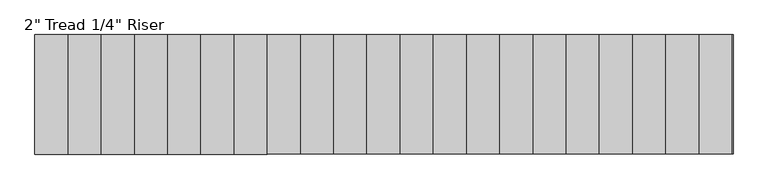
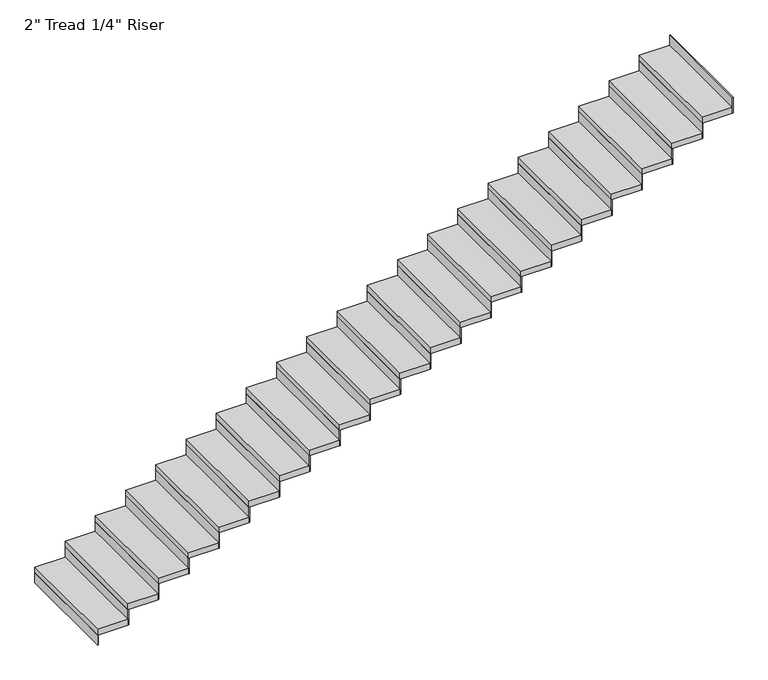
"""IFC4 building model written with IfcOpenShell, lengths in millimetres: stair flight geometry."""

from ifc_helpers import new_model, si_unit, frame, origin, origin_with_axes, place, context, project, spatial, polyline, outline, extrude, source, transform, mapped, element, save


def stair_flight_d92b2248(model_context):
    return source(origin(), model_context, "Body", "SweptSolid", [
        extrude(outline(polyline([(13209.8286682, 6677.964969), (13203.4786682, 6677.964969), (13203.4786682, 7592.364969), (13209.8286682, 7592.364969), (13209.8286682, 6677.964969)])), origin_with_axes(), (0.0, 0.0, 1.0), 87.7454545),
        extrude(outline(polyline([(13457.4786682, 7592.364969), (13457.4786682, 6677.964969), (13203.4786682, 6677.964969), (13203.4786682, 7592.364969), (13457.4786682, 7592.364969)])), frame((0.0, 0.0, 87.7454545), z_axis=(0.0, 0.0, 1.0), x_axis=(1.0, 0.0, 0.0)), (0.0, 0.0, 1.0), 50.8),
        extrude(outline(polyline([(13463.8286682, 6677.964969), (13457.4786682, 6677.964969), (13457.4786682, 7592.364969), (13463.8286682, 7592.364969), (13463.8286682, 6677.964969)])), frame((0.0, 0.0, 87.7454545), z_axis=(0.0, 0.0, 1.0), x_axis=(1.0, 0.0, 0.0)), (0.0, 0.0, 1.0), 138.5454545),
        extrude(outline(polyline([(13711.4786682, 7592.364969), (13711.4786682, 6677.964969), (13457.4786682, 6677.964969), (13457.4786682, 7592.364969), (13711.4786682, 7592.364969)])), frame((0.0, 0.0, 226.2909091), z_axis=(0.0, 0.0, 1.0), x_axis=(1.0, 0.0, 0.0)), (0.0, 0.0, 1.0), 50.8),
        extrude(outline(polyline([(13717.8286682, 6677.964969), (13711.4786682, 6677.964969), (13711.4786682, 7592.364969), (13717.8286682, 7592.364969), (13717.8286682, 6677.964969)])), frame((0.0, 0.0, 226.2909091), z_axis=(0.0, 0.0, 1.0), x_axis=(1.0, 0.0, 0.0)), (0.0, 0.0, 1.0), 138.5454545),
        extrude(outline(polyline([(13965.4786682, 7592.364969), (13965.4786682, 6677.964969), (13711.4786682, 6677.964969), (13711.4786682, 7592.364969), (13965.4786682, 7592.364969)])), frame((0.0, 0.0, 364.8363636), z_axis=(0.0, 0.0, 1.0), x_axis=(1.0, 0.0, 0.0)), (0.0, 0.0, 1.0), 50.8),
        extrude(outline(polyline([(13971.8286682, 6677.964969), (13965.4786682, 6677.964969), (13965.4786682, 7592.364969), (13971.8286682, 7592.364969), (13971.8286682, 6677.964969)])), frame((0.0, 0.0, 364.8363636), z_axis=(0.0, 0.0, 1.0), x_axis=(1.0, 0.0, 0.0)), (0.0, 0.0, 1.0), 138.5454545),
        extrude(outline(polyline([(14219.4786682, 7592.364969), (14219.4786682, 6677.964969), (13965.4786682, 6677.964969), (13965.4786682, 7592.364969), (14219.4786682, 7592.364969)])), frame((0.0, 0.0, 503.3818182), z_axis=(0.0, 0.0, 1.0), x_axis=(1.0, 0.0, 0.0)), (0.0, 0.0, 1.0), 50.8),
        extrude(outline(polyline([(14225.8286682, 6677.964969), (14219.4786682, 6677.964969), (14219.4786682, 7592.364969), (14225.8286682, 7592.364969), (14225.8286682, 6677.964969)])), frame((0.0, 0.0, 503.3818182), z_axis=(0.0, 0.0, 1.0), x_axis=(1.0, 0.0, 0.0)), (0.0, 0.0, 1.0), 138.5454545),
        extrude(outline(polyline([(14473.4786682, 7592.364969), (14473.4786682, 6677.964969), (14219.4786682, 6677.964969), (14219.4786682, 7592.364969), (14473.4786682, 7592.364969)])), frame((0.0, 0.0, 641.9272727), z_axis=(0.0, 0.0, 1.0), x_axis=(1.0, 0.0, 0.0)), (0.0, 0.0, 1.0), 50.8),
        extrude(outline(polyline([(14479.8286682, 6677.964969), (14473.4786682, 6677.964969), (14473.4786682, 7592.364969), (14479.8286682, 7592.364969), (14479.8286682, 6677.964969)])), frame((0.0, 0.0, 641.9272727), z_axis=(0.0, 0.0, 1.0), x_axis=(1.0, 0.0, 0.0)), (0.0, 0.0, 1.0), 138.5454545),
        extrude(outline(polyline([(14727.4786682, 7592.364969), (14727.4786682, 6677.964969), (14473.4786682, 6677.964969), (14473.4786682, 7592.364969), (14727.4786682, 7592.364969)])), frame((0.0, 0.0, 780.4727273), z_axis=(0.0, 0.0, 1.0), x_axis=(1.0, 0.0, 0.0)), (0.0, 0.0, 1.0), 50.8),
        extrude(outline(polyline([(14733.8286682, 6677.964969), (14727.4786682, 6677.964969), (14727.4786682, 7592.364969), (14733.8286682, 7592.364969), (14733.8286682, 6677.964969)])), frame((0.0, 0.0, 780.4727273), z_axis=(0.0, 0.0, 1.0), x_axis=(1.0, 0.0, 0.0)), (0.0, 0.0, 1.0), 138.5454545),
        extrude(outline(polyline([(14981.4786682, 7592.364969), (14981.4786682, 6677.964969), (14727.4786682, 6677.964969), (14727.4786682, 7592.364969), (14981.4786682, 7592.364969)])), frame((0.0, 0.0, 919.0181818), z_axis=(0.0, 0.0, 1.0), x_axis=(1.0, 0.0, 0.0)), (0.0, 0.0, 1.0), 50.8),
        extrude(outline(polyline([(14987.8286682, 6677.964969), (14981.4786682, 6677.964969), (14981.4786682, 7592.364969), (14987.8286682, 7592.364969), (14987.8286682, 6677.964969)])), frame((0.0, 0.0, 919.0181818), z_axis=(0.0, 0.0, 1.0), x_axis=(1.0, 0.0, 0.0)), (0.0, 0.0, 1.0), 138.5454545),
        extrude(outline(polyline([(15235.4786682, 7592.364969), (15235.4786682, 6677.964969), (14981.4786682, 6677.964969), (14981.4786682, 7592.364969), (15235.4786682, 7592.364969)])), frame((0.0, 0.0, 1057.5636364), z_axis=(0.0, 0.0, 1.0), x_axis=(1.0, 0.0, 0.0)), (0.0, 0.0, 1.0), 50.8),
        extrude(outline(polyline([(15241.8286682, 6677.964969), (15235.4786682, 6677.964969), (15235.4786682, 7592.364969), (15241.8286682, 7592.364969), (15241.8286682, 6677.964969)])), frame((0.0, 0.0, 1057.5636364), z_axis=(0.0, 0.0, 1.0), x_axis=(1.0, 0.0, 0.0)), (0.0, 0.0, 1.0), 138.5454545),
        extrude(outline(polyline([(15489.4786682, 7592.364969), (15489.4786682, 6677.964969), (15235.4786682, 6677.964969), (15235.4786682, 7592.364969), (15489.4786682, 7592.364969)])), frame((0.0, 0.0, 1196.1090909), z_axis=(0.0, 0.0, 1.0), x_axis=(1.0, 0.0, 0.0)), (0.0, 0.0, 1.0), 50.8),
        extrude(outline(polyline([(15495.8286682, 6677.964969), (15489.4786682, 6677.964969), (15489.4786682, 7592.364969), (15495.8286682, 7592.364969), (15495.8286682, 6677.964969)])), frame((0.0, 0.0, 1196.1090909), z_axis=(0.0, 0.0, 1.0), x_axis=(1.0, 0.0, 0.0)), (0.0, 0.0, 1.0), 138.5454545),
        extrude(outline(polyline([(15743.4786682, 7592.364969), (15743.4786682, 6677.964969), (15489.4786682, 6677.964969), (15489.4786682, 7592.364969), (15743.4786682, 7592.364969)])), frame((0.0, 0.0, 1334.6545455), z_axis=(0.0, 0.0, 1.0), x_axis=(1.0, 0.0, 0.0)), (0.0, 0.0, 1.0), 50.8),
        extrude(outline(polyline([(15749.8286682, 6677.964969), (15743.4786682, 6677.964969), (15743.4786682, 7592.364969), (15749.8286682, 7592.364969), (15749.8286682, 6677.964969)])), frame((0.0, 0.0, 1334.6545455), z_axis=(0.0, 0.0, 1.0), x_axis=(1.0, 0.0, 0.0)), (0.0, 0.0, 1.0), 138.5454545),
        extrude(outline(polyline([(15997.4786682, 7592.364969), (15997.4786682, 6677.964969), (15743.4786682, 6677.964969), (15743.4786682, 7592.364969), (15997.4786682, 7592.364969)])), frame((0.0, 0.0, 1473.2), z_axis=(0.0, 0.0, 1.0), x_axis=(1.0, 0.0, 0.0)), (0.0, 0.0, 1.0), 50.8),
        extrude(outline(polyline([(16003.8286682, 6677.964969), (15997.4786682, 6677.964969), (15997.4786682, 7592.364969), (16003.8286682, 7592.364969), (16003.8286682, 6677.964969)])), frame((0.0, 0.0, 1473.2), z_axis=(0.0, 0.0, 1.0), x_axis=(1.0, 0.0, 0.0)), (0.0, 0.0, 1.0), 138.5454545),
        extrude(outline(polyline([(16251.4786682, 7592.364969), (16251.4786682, 6677.964969), (15997.4786682, 6677.964969), (15997.4786682, 7592.364969), (16251.4786682, 7592.364969)])), frame((0.0, 0.0, 1611.7454545), z_axis=(0.0, 0.0, 1.0), x_axis=(1.0, 0.0, 0.0)), (0.0, 0.0, 1.0), 50.8),
        extrude(outline(polyline([(16257.8286682, 6677.964969), (16251.4786682, 6677.964969), (16251.4786682, 7592.364969), (16257.8286682, 7592.364969), (16257.8286682, 6677.964969)])), frame((0.0, 0.0, 1611.7454545), z_axis=(0.0, 0.0, 1.0), x_axis=(1.0, 0.0, 0.0)), (0.0, 0.0, 1.0), 138.5454545),
        extrude(outline(polyline([(16505.4786682, 7592.364969), (16505.4786682, 6677.964969), (16251.4786682, 6677.964969), (16251.4786682, 7592.364969), (16505.4786682, 7592.364969)])), frame((0.0, 0.0, 1750.2909091), z_axis=(0.0, 0.0, 1.0), x_axis=(1.0, 0.0, 0.0)), (0.0, 0.0, 1.0), 50.8),
        extrude(outline(polyline([(16511.8286682, 6677.964969), (16505.4786682, 6677.964969), (16505.4786682, 7592.364969), (16511.8286682, 7592.364969), (16511.8286682, 6677.964969)])), frame((0.0, 0.0, 1750.2909091), z_axis=(0.0, 0.0, 1.0), x_axis=(1.0, 0.0, 0.0)), (0.0, 0.0, 1.0), 138.5454545),
        extrude(outline(polyline([(16759.4786682, 7592.364969), (16759.4786682, 6677.964969), (16505.4786682, 6677.964969), (16505.4786682, 7592.364969), (16759.4786682, 7592.364969)])), frame((0.0, 0.0, 1888.8363636), z_axis=(0.0, 0.0, 1.0), x_axis=(1.0, 0.0, 0.0)), (0.0, 0.0, 1.0), 50.8),
        extrude(outline(polyline([(16765.8286682, 6677.964969), (16759.4786682, 6677.964969), (16759.4786682, 7592.364969), (16765.8286682, 7592.364969), (16765.8286682, 6677.964969)])), frame((0.0, 0.0, 1888.8363636), z_axis=(0.0, 0.0, 1.0), x_axis=(1.0, 0.0, 0.0)), (0.0, 0.0, 1.0), 138.5454545),
        extrude(outline(polyline([(17013.4786682, 7592.364969), (17013.4786682, 6677.964969), (16759.4786682, 6677.964969), (16759.4786682, 7592.364969), (17013.4786682, 7592.364969)])), frame((0.0, 0.0, 2027.3818182), z_axis=(0.0, 0.0, 1.0), x_axis=(1.0, 0.0, 0.0)), (0.0, 0.0, 1.0), 50.8),
        extrude(outline(polyline([(17019.8286682, 6677.964969), (17013.4786682, 6677.964969), (17013.4786682, 7592.364969), (17019.8286682, 7592.364969), (17019.8286682, 6677.964969)])), frame((0.0, 0.0, 2027.3818182), z_axis=(0.0, 0.0, 1.0), x_axis=(1.0, 0.0, 0.0)), (0.0, 0.0, 1.0), 138.5454545),
        extrude(outline(polyline([(17267.4786682, 7592.364969), (17267.4786682, 6677.964969), (17013.4786682, 6677.964969), (17013.4786682, 7592.364969), (17267.4786682, 7592.364969)])), frame((0.0, 0.0, 2165.9272727), z_axis=(0.0, 0.0, 1.0), x_axis=(1.0, 0.0, 0.0)), (0.0, 0.0, 1.0), 50.8),
        extrude(outline(polyline([(17273.8286682, 6677.964969), (17267.4786682, 6677.964969), (17267.4786682, 7592.364969), (17273.8286682, 7592.364969), (17273.8286682, 6677.964969)])), frame((0.0, 0.0, 2165.9272727), z_axis=(0.0, 0.0, 1.0), x_axis=(1.0, 0.0, 0.0)), (0.0, 0.0, 1.0), 138.5454545),
        extrude(outline(polyline([(17521.4786682, 7592.364969), (17521.4786682, 6677.964969), (17267.4786682, 6677.964969), (17267.4786682, 7592.364969), (17521.4786682, 7592.364969)])), frame((0.0, 0.0, 2304.4727273), z_axis=(0.0, 0.0, 1.0), x_axis=(1.0, 0.0, 0.0)), (0.0, 0.0, 1.0), 50.8),
        extrude(outline(polyline([(17527.8286682, 6677.964969), (17521.4786682, 6677.964969), (17521.4786682, 7592.364969), (17527.8286682, 7592.364969), (17527.8286682, 6677.964969)])), frame((0.0, 0.0, 2304.4727273), z_axis=(0.0, 0.0, 1.0), x_axis=(1.0, 0.0, 0.0)), (0.0, 0.0, 1.0), 138.5454545),
        extrude(outline(polyline([(17775.4786682, 7592.364969), (17775.4786682, 6677.964969), (17521.4786682, 6677.964969), (17521.4786682, 7592.364969), (17775.4786682, 7592.364969)])), frame((0.0, 0.0, 2443.0181818), z_axis=(0.0, 0.0, 1.0), x_axis=(1.0, 0.0, 0.0)), (0.0, 0.0, 1.0), 50.8),
        extrude(outline(polyline([(17781.8286682, 6677.964969), (17775.4786682, 6677.964969), (17775.4786682, 7592.364969), (17781.8286682, 7592.364969), (17781.8286682, 6677.964969)])), frame((0.0, 0.0, 2443.0181818), z_axis=(0.0, 0.0, 1.0), x_axis=(1.0, 0.0, 0.0)), (0.0, 0.0, 1.0), 138.5454545),
        extrude(outline(polyline([(18029.4786682, 7592.364969), (18029.4786682, 6677.964969), (17775.4786682, 6677.964969), (17775.4786682, 7592.364969), (18029.4786682, 7592.364969)])), frame((0.0, 0.0, 2581.5636364), z_axis=(0.0, 0.0, 1.0), x_axis=(1.0, 0.0, 0.0)), (0.0, 0.0, 1.0), 50.8),
        extrude(outline(polyline([(18035.8286682, 6677.964969), (18029.4786682, 6677.964969), (18029.4786682, 7592.364969), (18035.8286682, 7592.364969), (18035.8286682, 6677.964969)])), frame((0.0, 0.0, 2581.5636364), z_axis=(0.0, 0.0, 1.0), x_axis=(1.0, 0.0, 0.0)), (0.0, 0.0, 1.0), 138.5454545),
        extrude(outline(polyline([(18283.4786682, 7592.364969), (18283.4786682, 6677.964969), (18029.4786682, 6677.964969), (18029.4786682, 7592.364969), (18283.4786682, 7592.364969)])), frame((0.0, 0.0, 2720.1090909), z_axis=(0.0, 0.0, 1.0), x_axis=(1.0, 0.0, 0.0)), (0.0, 0.0, 1.0), 50.8),
        extrude(outline(polyline([(18289.8286682, 6677.964969), (18283.4786682, 6677.964969), (18283.4786682, 7592.364969), (18289.8286682, 7592.364969), (18289.8286682, 6677.964969)])), frame((0.0, 0.0, 2720.1090909), z_axis=(0.0, 0.0, 1.0), x_axis=(1.0, 0.0, 0.0)), (0.0, 0.0, 1.0), 138.5454545),
        extrude(outline(polyline([(18543.8286682, 6677.964969), (18537.4786682, 6677.964969), (18537.4786682, 7592.364969), (18543.8286682, 7592.364969), (18543.8286682, 6677.964969)])), frame((0.0, 0.0, 2858.6545455), z_axis=(0.0, 0.0, 1.0), x_axis=(1.0, 0.0, 0.0)), (0.0, 0.0, 1.0), 138.5454545),
        extrude(outline(polyline([(18537.4786682, 7592.364969), (18537.4786682, 6677.964969), (18283.4786682, 6677.964969), (18283.4786682, 7592.364969), (18537.4786682, 7592.364969)])), frame((0.0, 0.0, 2858.6545455), z_axis=(0.0, 0.0, 1.0), x_axis=(1.0, 0.0, 0.0)), (0.0, 0.0, 1.0), 50.8),
    ])


if __name__ == "__main__":
    model = new_model("IFC4")
    model_context = context("Model", 3, world=origin())
    ifc_project = project(units=[si_unit("LENGTHUNIT", "METRE", prefix="MILLI")], contexts=[model_context])
    site = spatial("IfcSite", under=ifc_project)
    building = spatial("IfcBuilding", under=site)
    placement = place(None, origin())
    stair_flight_shape = stair_flight_d92b2248(model_context)
    element("IfcStairFlight", 1, ObjectType="2\" Tread 1/4\" Riser", at=placement, inside=building, context=model_context, shape_type="MappedRepresentation", body=[
        mapped(stair_flight_shape, transform((0.0, 0.0, 0.0), x_axis=(1.0, 0.0, 0.0), y_axis=(0.0, 1.0, 0.0), z_axis=(0.0, 0.0, 1.0))),
    ])
    save(model, "model.ifc")
